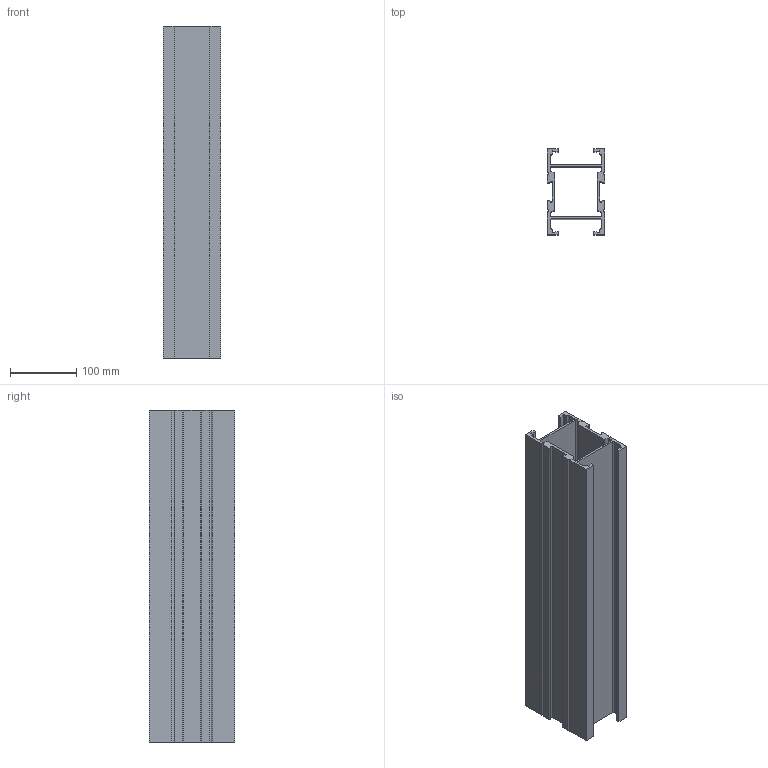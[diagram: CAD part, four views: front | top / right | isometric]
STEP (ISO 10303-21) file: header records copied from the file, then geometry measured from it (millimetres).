
FILE_DESCRIPTION (( 'STEP AP203' ), '1' );
FILE_NAME ('R2TBPS500.STEP', '2008-11-26T12:51:53', ( 'faber' ), ( '' ), 'SwSTEP 2.0', 'SolidWorks 2008', '' );
FILE_SCHEMA (( 'CONFIG_CONTROL_DESIGN' ));
Length unit declared in the file: millimetre
Products named in the file (1): R2TBPS500
Bounding box: 86 x 129 x 500 mm (x, y, z)
Volume: 1083488.1 mm3; surface area: 496954.5 mm2
Topology: 1 solids, 1 shells, 88 faces, 258 edges, 172 vertices
Faces by surface type: plane 54, cylinder 34
Entity records: 3011 total; most frequent: CARTESIAN_POINT 519, ORIENTED_EDGE 516, DIRECTION 504, EDGE_CURVE 258, VECTOR 190, LINE 190, VERTEX_POINT 172, AXIS2_PLACEMENT_3D 157
